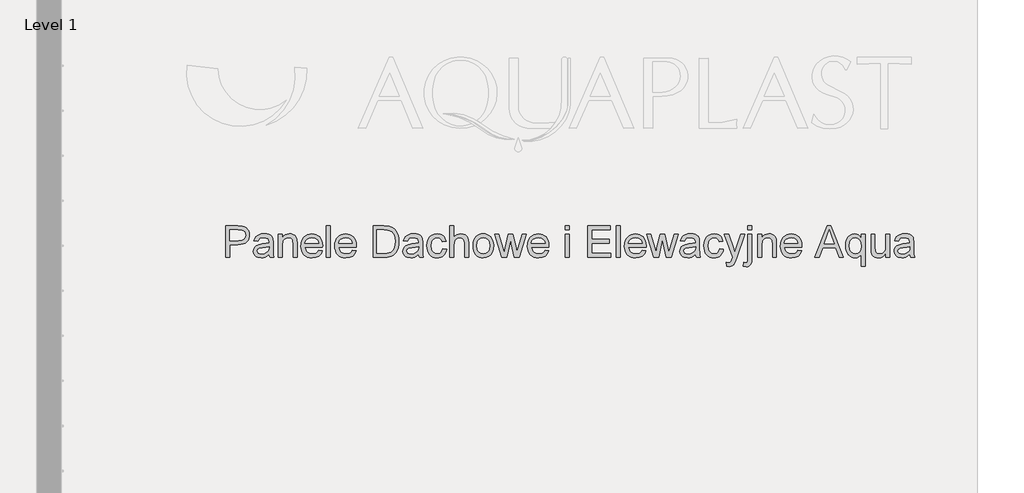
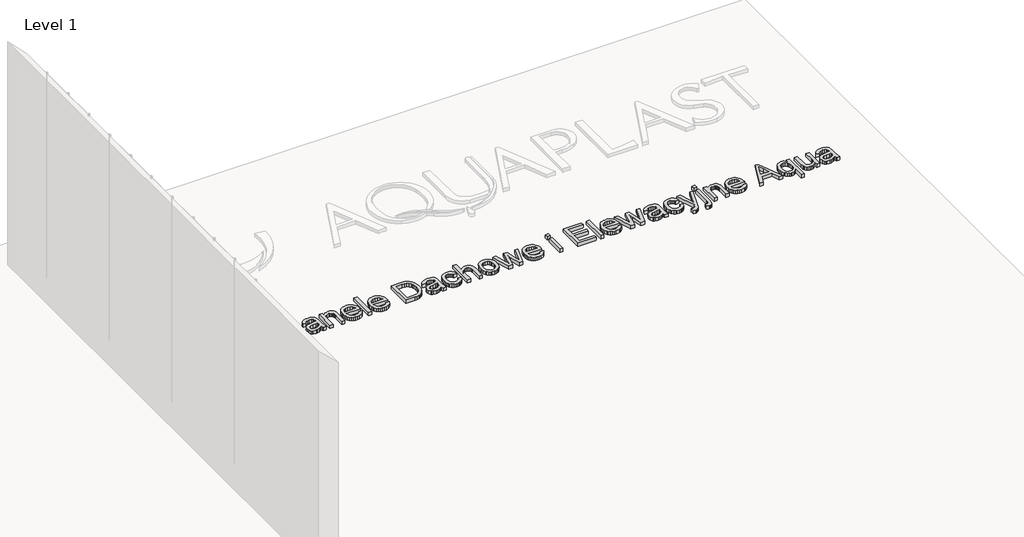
# One storey, part 22 of 22: 1 proxy.
"""IFC4 building model written with IfcOpenShell, lengths in millimetres."""

from ifc_helpers import new_model, si_unit, frame, origin, place, context, project, spatial, polyline, outline, extrude, element, save

model = new_model("IFC4")

# Units and contexts
model_context = context("Model", 3, world=origin())
ifc_project = project(units=[si_unit("LENGTHUNIT", "METRE", prefix="MILLI")], contexts=[model_context])

# Site, building, storey
site = spatial("IfcSite", under=ifc_project)
building = spatial("IfcBuilding", under=site)
storey = spatial("IfcBuildingStorey", under=building, Name="Level 1", Elevation=0.0)

# Proxy
placement = place(None, origin())
element("IfcBuildingElementProxy", 1, Name="400", ObjectType="400", at=placement, inside=storey, context=model_context, shape_type="SweptSolid", body=[
    extrude(outline(polyline([(-314.8019395, 13060.2215643), (-314.8019395, 13409.9541198), (-185.1891418, 13409.9541198), (-132.9341799, 13406.6241467), (-109.6350415, 13400.4017932), (-90.4556774, 13390.2731251), (-75.01186, 13375.7792039), (-62.9193617, 13356.461091), (-55.1067326, 13333.6742561), (-52.5025229, 13308.774169), (-54.2608981, 13287.3054485), (-59.5360237, 13267.5550794), (-68.3278997, 13249.5230618), (-80.6365261, 13233.2093957), (-97.5345384, 13219.6867166), (-120.0945723, 13210.0276601), (-148.3166276, 13204.2322262), (-182.2007045, 13202.3004149), (-271.0853701, 13202.3004149), (-271.0853701, 13060.2215643), (-314.8019395, 13060.2215643)]), holes=[polyline([(-271.0853701, 13246.0169844), (-179.6391867, 13246.0169844), (-140.8748849, 13250.0300288), (-126.4236557, 13255.0463344), (-115.2597075, 13262.0691622), (-100.9792461, 13281.3872752), (-96.2190923, 13307.2372584), (-99.0260888, 13326.8755611), (-107.4470784, 13343.4400424), (-120.436108, 13355.9060955), (-136.9472244, 13363.249113), (-180.6637938, 13366.2375503), (-271.0853701, 13366.2375503), (-271.0853701, 13246.0169844)])]), frame((0.0, 0.0, 600.0), z_axis=(0.0, 0.0, 1.0), x_axis=(1.0, 0.0, 0.0)), (0.0, 0.0, 1.0), 50.0),
    extrude(outline(polyline([(166.0803243, 13093.0089913), (145.1932818, 13075.0997131), (123.6872057, 13063.3807695), (101.0711387, 13056.9129372), (76.854123, 13054.7569931), (40.3204763, 13059.9440665), (25.6477824, 13066.4279083), (13.371175, 13075.5052868), (-3.2466713, 13099.1352879), (-8.7859534, 13128.528704), (-6.6940473, 13146.651442), (-0.4183288, 13163.1091935), (9.2620737, 13177.1975411), (21.5680318, 13188.2120674), (52.1781688, 13202.5565667), (90.0032474, 13209.1311289), (134.701732, 13216.0472268), (165.8241726, 13224.1586997), (166.0803243, 13233.8924671), (163.070541, 13253.4026939), (154.041191, 13266.1675906), (133.8478928, 13275.6452062), (105.7138896, 13278.8044115), (79.6717925, 13276.7018323), (61.4850166, 13270.3940949), (49.0830015, 13258.7285162), (40.3951872, 13240.5524132), (-3.3213822, 13246.0169844), (4.2671141, 13269.9244833), (15.5911571, 13288.7089467), (31.7073729, 13303.0747921), (53.6723875, 13313.7264367), (80.5363048, 13320.3223448), (111.3492286, 13322.5209809), (140.9027395, 13320.5784966), (164.3299539, 13314.7510438), (181.9937533, 13305.9885185), (194.2570195, 13295.240817), (202.3898383, 13281.9529437), (207.6622957, 13265.5699031), (209.7968938, 13227.3179049), (209.7968938, 13172.9283448), (212.0168758, 13096.9793438), (220.7260361, 13060.2215643), (177.0094667, 13060.2215643), (170.0079849, 13075.4199029), (166.0803243, 13093.0089913)]), holes=[polyline([(166.0803243, 13180.4421302), (136.7082542, 13173.1631506), (95.5532025, 13167.036854), (57.9415837, 13159.9499883), (40.9074907, 13148.4231585), (34.930616, 13131.6025253), (38.1858781, 13118.6028228), (47.9516645, 13107.9511782), (64.0145154, 13100.8429664), (86.1609708, 13098.4735625), (109.6415501, 13101.0884452), (130.3898438, 13108.9330933), (147.210477, 13120.4919421), (158.9080747, 13134.249427), (164.0951481, 13148.4231585), (165.8241726, 13168.0614611), (166.0803243, 13180.4421302)])]), frame((0.0, 0.0, 600.0), z_axis=(0.0, 0.0, 1.0), x_axis=(1.0, 0.0, 0.0)), (0.0, 0.0, 1.0), 50.0),
    extrude(outline(polyline([(269.9071768, 13060.2215643), (269.9071768, 13317.0564097), (313.6237462, 13317.0564097), (313.6237462, 13281.1951614), (328.8114118, 13299.2752074), (347.0515527, 13312.189526), (368.3441689, 13319.9381172), (392.6892605, 13322.5209809), (414.2380285, 13320.4397477), (433.972388, 13314.1960482), (450.4301395, 13304.5690107), (462.1490832, 13292.3377635), (470.1004612, 13277.5343256), (475.2555156, 13260.1907159), (477.5608816, 13217.9256732), (477.5608816, 13060.2215643), (433.8443122, 13060.2215643), (433.8443122, 13212.0341824), (432.5848993, 13234.6395764), (428.8066606, 13250.7131002), (421.8371977, 13262.2292571), (411.0041123, 13271.1625502), (397.1185516, 13276.8939461), (380.9916628, 13278.8044115), (355.3871584, 13274.5138692), (333.5608926, 13261.6422426), (324.8383911, 13251.1346834), (318.6080328, 13236.7741745), (313.6237462, 13196.4943081), (313.6237462, 13060.2215643), (269.9071768, 13060.2215643)])), frame((0.0, 0.0, 600.0), z_axis=(0.0, 0.0, 1.0), x_axis=(1.0, 0.0, 0.0)), (0.0, 0.0, 1.0), 50.0),
    extrude(outline(polyline([(717.48971, 13136.7255608), (760.3524402, 13131.2609896), (744.9086228, 13098.9645201), (720.2646875, 13074.8222154), (686.9756299, 13059.7732987), (645.5964454, 13054.7569931), (618.4710398, 13056.9209419), (594.3020526, 13063.4127884), (573.0894838, 13074.2325326), (554.8333334, 13089.3801745), (540.1526349, 13108.434131), (529.6664216, 13130.9728189), (523.3746937, 13156.9962381), (521.277451, 13186.5043889), (523.3960397, 13217.0131325), (529.7518056, 13243.9037322), (540.3447487, 13267.1761882), (555.1748691, 13286.8305004), (573.3829911, 13302.4450856), (594.1099388, 13313.5983608), (617.3557123, 13320.2903259), (643.1203116, 13322.5209809), (668.0550858, 13320.2956624), (690.6044467, 13313.6197068), (710.7683942, 13302.4931141), (728.5469282, 13286.9158843), (743.0595272, 13267.3042641), (753.4256693, 13244.0745001), (759.6453545, 13217.2265923), (761.718583, 13186.7605406), (761.4624312, 13174.977559), (564.9940205, 13174.977559), (572.5611708, 13142.2541699), (580.0989704, 13129.142401), (590.1395863, 13118.1972491), (615.5092849, 13103.4044842), (646.4502846, 13098.4735625), (669.7174041, 13100.7575825), (689.3130148, 13107.6096425), (705.2371168, 13119.456662), (717.48971, 13136.7255608)]), holes=[polyline([(564.9940205, 13218.6941285), (718.0020135, 13218.6941285), (712.0891767, 13241.7904801), (700.498309, 13258.3122695), (675.0112074, 13273.681376), (642.9495437, 13278.8044115), (613.4814167, 13274.7166561), (589.1149792, 13262.4533899), (572.1769431, 13243.3380637), (564.9940205, 13218.6941285)])]), frame((0.0, 0.0, 600.0), z_axis=(0.0, 0.0, 1.0), x_axis=(1.0, 0.0, 0.0)), (0.0, 0.0, 1.0), 50.0),
    extrude(outline(polyline([(805.4351524, 13060.2215643), (805.4351524, 13409.9541198), (849.1517218, 13409.9541198), (849.1517218, 13060.2215643), (805.4351524, 13060.2215643)])), frame((0.0, 0.0, 600.0), z_axis=(0.0, 0.0, 1.0), x_axis=(1.0, 0.0, 0.0)), (0.0, 0.0, 1.0), 50.0),
    extrude(outline(polyline([(1094.5451214, 13136.7255608), (1137.4078516, 13131.2609896), (1121.9640342, 13098.9645201), (1097.3200989, 13074.8222154), (1064.0310413, 13059.7732987), (1022.6518568, 13054.7569931), (995.5264512, 13056.9209419), (971.3574641, 13063.4127884), (950.1448953, 13074.2325326), (931.8887449, 13089.3801745), (917.2080463, 13108.434131), (906.7218331, 13130.9728189), (900.4301051, 13156.9962381), (898.3328625, 13186.5043889), (900.4514511, 13217.0131325), (906.807217, 13243.9037322), (917.4001601, 13267.1761882), (932.2302806, 13286.8305004), (950.4384025, 13302.4450856), (971.1653502, 13313.5983608), (994.4111237, 13320.2903259), (1020.175723, 13322.5209809), (1045.1104973, 13320.2956624), (1067.6598581, 13313.6197068), (1087.8238056, 13302.4931141), (1105.6023396, 13286.9158843), (1120.1149386, 13267.3042641), (1130.4810807, 13244.0745001), (1136.700766, 13217.2265923), (1138.7739944, 13186.7605406), (1138.5178426, 13174.977559), (942.0494319, 13174.977559), (949.6165822, 13142.2541699), (957.1543818, 13129.142401), (967.1949977, 13118.1972491), (992.5646963, 13103.4044842), (1023.5056961, 13098.4735625), (1046.7728155, 13100.7575825), (1066.3684263, 13107.6096425), (1082.2925282, 13119.456662), (1094.5451214, 13136.7255608)]), holes=[polyline([(942.0494319, 13218.6941285), (1095.0574249, 13218.6941285), (1089.1445882, 13241.7904801), (1077.5537204, 13258.3122695), (1052.0666189, 13273.681376), (1020.0049551, 13278.8044115), (990.5368281, 13274.7166561), (966.1703906, 13262.4533899), (949.2323546, 13243.3380637), (942.0494319, 13218.6941285)])]), frame((0.0, 0.0, 600.0), z_axis=(0.0, 0.0, 1.0), x_axis=(1.0, 0.0, 0.0)), (0.0, 0.0, 1.0), 50.0),
    extrude(outline(polyline([(1324.5694145, 13060.2215643), (1324.5694145, 13409.9541198), (1445.2169001, 13409.9541198), (1481.2702623, 13408.6947069), (1507.632549, 13404.9164682), (1535.5104005, 13395.2040468), (1559.0336717, 13379.8989783), (1583.2186684, 13353.2591938), (1600.4448752, 13320.130231), (1610.7549841, 13281.1524694), (1614.1916871, 13236.9662884), (1611.8649751, 13199.4293805), (1604.8848393, 13166.3964746), (1594.2545406, 13138.2731444), (1580.9773403, 13115.4649635), (1565.6936178, 13097.4596284), (1549.0437525, 13083.7448355), (1529.9284264, 13073.5734755), (1507.2483214, 13066.198439), (1480.9607456, 13061.7157829), (1451.023007, 13060.2215643), (1324.5694145, 13060.2215643)]), holes=[polyline([(1368.2859839, 13103.9381337), (1445.6438197, 13103.9381337), (1477.6414455, 13105.5177363), (1501.9118261, 13110.2565441), (1520.2266779, 13117.8770594), (1534.3577175, 13128.1017844), (1549.5453831, 13147.0249967), (1560.95481, 13171.5195101), (1568.0950407, 13201.6920545), (1570.4751176, 13237.6493598), (1565.8110207, 13285.2935897), (1559.9808996, 13304.4409348), (1551.8187301, 13320.4717667), (1531.1451473, 13344.6354174), (1506.4371741, 13359.2360685), (1481.2916083, 13364.4871799), (1444.4484448, 13366.2375503), (1368.2859839, 13366.2375503), (1368.2859839, 13103.9381337)])]), frame((0.0, 0.0, 600.0), z_axis=(0.0, 0.0, 1.0), x_axis=(1.0, 0.0, 0.0)), (0.0, 0.0, 1.0), 50.0),
    extrude(outline(polyline([(1832.7745343, 13093.0089913), (1811.8874917, 13075.0997131), (1790.3814156, 13063.3807695), (1767.7653486, 13056.9129372), (1743.548333, 13054.7569931), (1707.0146862, 13059.9440665), (1692.3419924, 13066.4279083), (1680.0653849, 13075.5052868), (1663.4475386, 13099.1352879), (1657.9082565, 13128.528704), (1660.0001626, 13146.651442), (1666.2758811, 13163.1091935), (1675.9562836, 13177.1975411), (1688.2622417, 13188.2120674), (1718.8723787, 13202.5565667), (1756.6974574, 13209.1311289), (1801.3959419, 13216.0472268), (1832.5183825, 13224.1586997), (1832.7745343, 13233.8924671), (1829.7647509, 13253.4026939), (1820.7354009, 13266.1675906), (1800.5421027, 13275.6452062), (1772.4080995, 13278.8044115), (1746.3660025, 13276.7018323), (1728.1792265, 13270.3940949), (1715.7772115, 13258.7285162), (1707.0893971, 13240.5524132), (1663.3728277, 13246.0169844), (1670.961324, 13269.9244833), (1682.285367, 13288.7089467), (1698.4015828, 13303.0747921), (1720.3665974, 13313.7264367), (1747.2305147, 13320.3223448), (1778.0434385, 13322.5209809), (1807.5969495, 13320.5784966), (1831.0241638, 13314.7510438), (1848.6879632, 13305.9885185), (1860.9512294, 13295.240817), (1869.0840482, 13281.9529437), (1874.3565056, 13265.5699031), (1876.4911037, 13227.3179049), (1876.4911037, 13172.9283448), (1878.7110857, 13096.9793438), (1887.4202461, 13060.2215643), (1843.7036766, 13060.2215643), (1836.7021948, 13075.4199029), (1832.7745343, 13093.0089913)]), holes=[polyline([(1832.7745343, 13180.4421302), (1803.4024642, 13173.1631506), (1762.2474125, 13167.036854), (1724.6357936, 13159.9499883), (1707.6017007, 13148.4231585), (1701.6248259, 13131.6025253), (1704.8800881, 13118.6028228), (1714.6458744, 13107.9511782), (1730.7087253, 13100.8429664), (1752.8551807, 13098.4735625), (1776.33576, 13101.0884452), (1797.0840537, 13108.9330933), (1813.9046869, 13120.4919421), (1825.6022846, 13134.249427), (1830.789358, 13148.4231585), (1832.5183825, 13168.0614611), (1832.7745343, 13180.4421302)])]), frame((0.0, 0.0, 600.0), z_axis=(0.0, 0.0, 1.0), x_axis=(1.0, 0.0, 0.0)), (0.0, 0.0, 1.0), 50.0),
    extrude(outline(polyline([(2100.5385221, 13153.1192743), (2144.2550915, 13147.6547031), (2139.5002742, 13127.0264806), (2132.0665363, 13108.7729984), (2121.9538777, 13092.8942567), (2109.1622985, 13079.3902553), (2094.2307846, 13068.6132031), (2077.6983222, 13060.9153086), (2059.5649112, 13056.296572), (2039.8305516, 13054.7569931), (2015.312024, 13056.9049324), (1993.3283316, 13063.3487505), (1973.8794745, 13074.0884473), (1956.9654527, 13089.1240228), (1943.274674, 13108.1726427), (1933.4955464, 13130.9514729), (1927.6280698, 13157.4605132), (1925.6722443, 13187.6997638), (1929.0128904, 13226.6028145), (1939.0348285, 13260.3187918), (1955.8981537, 13287.5455907), (1979.7629606, 13306.9811066), (2008.3132104, 13318.6360123), (2039.2328642, 13322.5209809), (2076.1720846, 13317.1844856), (2091.864049, 13310.5138665), (2105.7042495, 13301.1749997), (2117.4578804, 13289.3813451), (2126.8901358, 13275.3463625), (2138.7905203, 13240.5524132), (2095.0739509, 13235.087842), (2087.1439189, 13254.1604762), (2074.7952688, 13267.8325771), (2058.711072, 13276.0614529), (2039.5743999, 13278.8044115), (2011.3229938, 13273.4038782), (1988.8990405, 13257.2022785), (1980.3633163, 13244.8322824), (1974.2663705, 13229.3244271), (1969.3888138, 13188.8951388), (1974.1596405, 13147.9215279), (1980.123174, 13132.3096109), (1988.4721209, 13119.9476196), (2010.4905005, 13103.8420768), (2038.3790249, 13098.4735625), (2061.0164379, 13101.8248816), (2079.5767686, 13111.8788387), (2093.0781017, 13128.8915857), (2100.5385221, 13153.1192743)])), frame((0.0, 0.0, 600.0), z_axis=(0.0, 0.0, 1.0), x_axis=(1.0, 0.0, 0.0)), (0.0, 0.0, 1.0), 50.0),
    extrude(outline(polyline([(2182.5070898, 13060.2215643), (2182.5070898, 13409.9541198), (2226.2236592, 13409.9541198), (2226.2236592, 13281.3659292), (2242.2811736, 13299.3712643), (2260.3131912, 13312.232218), (2280.319712, 13319.9487902), (2302.3007361, 13322.5209809), (2328.7057148, 13319.7139844), (2351.3964928, 13311.2929948), (2369.2630791, 13297.9197376), (2381.1954825, 13280.2559382), (2387.9194666, 13255.9855576), (2390.1607946, 13222.7925569), (2390.1607946, 13060.2215643), (2346.4442252, 13060.2215643), (2346.4442252, 13218.2672089), (2342.9648303, 13245.6327567), (2332.5266455, 13264.3745282), (2315.7060123, 13275.1969406), (2293.0792723, 13278.8044115), (2274.6043255, 13276.3709696), (2257.2607158, 13269.070644), (2242.8948705, 13257.6078522), (2233.3532169, 13242.6870113), (2228.0060486, 13222.8565948), (2226.2236592, 13196.6650759), (2226.2236592, 13060.2215643), (2182.5070898, 13060.2215643)])), frame((0.0, 0.0, 600.0), z_axis=(0.0, 0.0, 1.0), x_axis=(1.0, 0.0, 0.0)), (0.0, 0.0, 1.0), 50.0),
    extrude(outline(polyline([(2439.3419352, 13188.638987), (2441.7060027, 13221.9013622), (2448.7982049, 13250.5636784), (2460.618542, 13274.6259356), (2477.1670139, 13294.088134), (2493.8275522, 13306.5275045), (2512.217115, 13315.4127692), (2532.3357022, 13320.743928), (2554.1833139, 13322.5209809), (2578.3016044, 13320.3570321), (2600.1091924, 13313.8651855), (2619.606078, 13303.0454413), (2636.7922611, 13287.8977994), (2650.819239, 13268.9345634), (2660.8385089, 13246.6680368), (2666.8500708, 13221.0982196), (2668.8539248, 13192.2251118), (2665.3104919, 13148.0602768), (2654.6801933, 13114.4403564), (2637.2725457, 13089.2627716), (2613.3970657, 13070.4249433), (2585.0389297, 13058.6739806), (2554.1833139, 13054.7569931), (2529.7128148, 13056.9129372), (2507.7024399, 13063.3807695), (2488.1521894, 13074.16049), (2471.0620633, 13089.2520987), (2457.1845073, 13108.3994438), (2447.2719672, 13131.3463735), (2441.3244432, 13158.0928879), (2439.3419352, 13188.638987)]), holes=[polyline([(2483.0585047, 13188.7243709), (2488.1175022, 13149.1595948), (2494.4412491, 13133.6437347), (2503.2944948, 13120.9722267), (2526.1346947, 13104.0982286), (2554.1833139, 13098.4735625), (2582.1038573, 13104.1302475), (2604.9013652, 13121.1003026), (2613.7546109, 13133.8972183), (2620.0783578, 13149.6612254), (2625.1373554, 13190.0905137), (2620.0463389, 13228.5026068), (2613.6825682, 13243.7302961), (2604.7732893, 13256.3057473), (2581.9437625, 13273.1797454), (2554.1833139, 13278.8044115), (2526.1346947, 13273.2010914), (2503.2944948, 13256.3911312), (2494.4412491, 13243.7569786), (2488.1175022, 13228.267801), (2483.0585047, 13188.7243709)])]), frame((0.0, 0.0, 600.0), z_axis=(0.0, 0.0, 1.0), x_axis=(1.0, 0.0, 0.0)), (0.0, 0.0, 1.0), 50.0),
    extrude(outline(polyline([(2760.9831795, 13060.2215643), (2682.5153528, 13317.0564097), (2727.8542168, 13317.0564097), (2772.2538576, 13167.2076219), (2785.4883659, 13113.6719011), (2796.3321244, 13165.2437916), (2831.5956853, 13317.0564097), (2883.5091115, 13317.0564097), (2918.7726724, 13165.6707112), (2928.4210559, 13118.9657044), (2942.2532517, 13168.232229), (2986.6528925, 13317.0564097), (3032.2479083, 13317.0564097), (2953.5239297, 13060.2215643), (2900.7566643, 13060.2215643), (2867.1153979, 13210.8388074), (2857.3816305, 13257.799966), (2814.0919807, 13060.2215643), (2760.9831795, 13060.2215643)])), frame((0.0, 0.0, 600.0), z_axis=(0.0, 0.0, 1.0), x_axis=(1.0, 0.0, 0.0)), (0.0, 0.0, 1.0), 50.0),
    extrude(outline(polyline([(3242.1215952, 13136.7255608), (3284.9843254, 13131.2609896), (3269.540508, 13098.9645201), (3244.8965727, 13074.8222154), (3211.6075151, 13059.7732987), (3170.2283306, 13054.7569931), (3143.102925, 13056.9209419), (3118.9339378, 13063.4127884), (3097.721369, 13074.2325326), (3079.4652186, 13089.3801745), (3064.7845201, 13108.434131), (3054.2983068, 13130.9728189), (3048.0065789, 13156.9962381), (3045.9093362, 13186.5043889), (3048.0279249, 13217.0131325), (3054.3836908, 13243.9037322), (3064.9766339, 13267.1761882), (3079.8067543, 13286.8305004), (3098.0148763, 13302.4450856), (3118.741824, 13313.5983608), (3141.9875975, 13320.2903259), (3167.7521968, 13322.5209809), (3192.686971, 13320.2956624), (3215.2363319, 13313.6197068), (3235.4002793, 13302.4931141), (3253.1788134, 13286.9158843), (3267.6914124, 13267.3042641), (3278.0575545, 13244.0745001), (3284.2772397, 13217.2265923), (3286.3504682, 13186.7605406), (3286.0943164, 13174.977559), (3089.6259057, 13174.977559), (3097.193056, 13142.2541699), (3104.7308556, 13129.142401), (3114.7714715, 13118.1972491), (3140.1411701, 13103.4044842), (3171.0821698, 13098.4735625), (3194.3492893, 13100.7575825), (3213.9449, 13107.6096425), (3229.869002, 13119.456662), (3242.1215952, 13136.7255608)]), holes=[polyline([(3089.6259057, 13218.6941285), (3242.6338987, 13218.6941285), (3236.7210619, 13241.7904801), (3225.1301942, 13258.3122695), (3199.6430926, 13273.681376), (3167.5814289, 13278.8044115), (3138.1133019, 13274.7166561), (3113.7468644, 13262.4533899), (3096.8088283, 13243.3380637), (3089.6259057, 13218.6941285)])]), frame((0.0, 0.0, 600.0), z_axis=(0.0, 0.0, 1.0), x_axis=(1.0, 0.0, 0.0)), (0.0, 0.0, 1.0), 50.0),
    extrude(outline(polyline([(3466.6813171, 13366.2375503), (3466.6813171, 13409.9541198), (3510.3978865, 13409.9541198), (3510.3978865, 13366.2375503), (3466.6813171, 13366.2375503)])), frame((0.0, 0.0, 600.0), z_axis=(0.0, 0.0, 1.0), x_axis=(1.0, 0.0, 0.0)), (0.0, 0.0, 1.0), 50.0),
    extrude(outline(polyline([(3466.6813171, 13060.2215643), (3466.6813171, 13317.0564097), (3510.3978865, 13317.0564097), (3510.3978865, 13060.2215643), (3466.6813171, 13060.2215643)])), frame((0.0, 0.0, 600.0), z_axis=(0.0, 0.0, 1.0), x_axis=(1.0, 0.0, 0.0)), (0.0, 0.0, 1.0), 50.0),
    extrude(outline(polyline([(3718.0515914, 13060.2215643), (3718.0515914, 13409.9541198), (3969.4218657, 13409.9541198), (3969.4218657, 13366.2375503), (3761.7681608, 13366.2375503), (3761.7681608, 13262.4106979), (3958.4927233, 13262.4106979), (3958.4927233, 13218.6941285), (3761.7681608, 13218.6941285), (3761.7681608, 13103.9381337), (3974.8864368, 13103.9381337), (3974.8864368, 13060.2215643), (3718.0515914, 13060.2215643)])), frame((0.0, 0.0, 600.0), z_axis=(0.0, 0.0, 1.0), x_axis=(1.0, 0.0, 0.0)), (0.0, 0.0, 1.0), 50.0),
    extrude(outline(polyline([(4034.9967198, 13060.2215643), (4034.9967198, 13409.9541198), (4078.7132893, 13409.9541198), (4078.7132893, 13060.2215643), (4034.9967198, 13060.2215643)])), frame((0.0, 0.0, 600.0), z_axis=(0.0, 0.0, 1.0), x_axis=(1.0, 0.0, 0.0)), (0.0, 0.0, 1.0), 50.0),
    extrude(outline(polyline([(4324.1066888, 13136.7255608), (4366.969419, 13131.2609896), (4351.5256016, 13098.9645201), (4326.8816664, 13074.8222154), (4293.5926087, 13059.7732987), (4252.2134242, 13054.7569931), (4225.0880187, 13056.9209419), (4200.9190315, 13063.4127884), (4179.7064627, 13074.2325326), (4161.4503123, 13089.3801745), (4146.7696137, 13108.434131), (4136.2834005, 13130.9728189), (4129.9916725, 13156.9962381), (4127.8944299, 13186.5043889), (4130.0130185, 13217.0131325), (4136.3687844, 13243.9037322), (4146.9617276, 13267.1761882), (4161.791848, 13286.8305004), (4179.9999699, 13302.4450856), (4200.7269176, 13313.5983608), (4223.9726911, 13320.2903259), (4249.7372904, 13322.5209809), (4274.6720647, 13320.2956624), (4297.2214255, 13313.6197068), (4317.385373, 13302.4931141), (4335.1639071, 13286.9158843), (4349.676506, 13267.3042641), (4360.0426481, 13244.0745001), (4366.2623334, 13217.2265923), (4368.3355618, 13186.7605406), (4368.07941, 13174.977559), (4171.6109993, 13174.977559), (4179.1781497, 13142.2541699), (4186.7159493, 13129.142401), (4196.7565651, 13118.1972491), (4222.1262638, 13103.4044842), (4253.0672635, 13098.4735625), (4276.334383, 13100.7575825), (4295.9299937, 13107.6096425), (4311.8540956, 13119.456662), (4324.1066888, 13136.7255608)]), holes=[polyline([(4171.6109993, 13218.6941285), (4324.6189924, 13218.6941285), (4318.7061556, 13241.7904801), (4307.1152878, 13258.3122695), (4281.6281863, 13273.681376), (4249.5665226, 13278.8044115), (4220.0983956, 13274.7166561), (4195.7319581, 13262.4533899), (4178.793922, 13243.3380637), (4171.6109993, 13218.6941285)])]), frame((0.0, 0.0, 600.0), z_axis=(0.0, 0.0, 1.0), x_axis=(1.0, 0.0, 0.0)), (0.0, 0.0, 1.0), 50.0),
    extrude(outline(polyline([(4455.0002454, 13060.2215643), (4376.5324186, 13317.0564097), (4421.8712826, 13317.0564097), (4466.2709234, 13167.2076219), (4479.5054318, 13113.6719011), (4490.3491902, 13165.2437916), (4525.6127511, 13317.0564097), (4577.5261773, 13317.0564097), (4612.7897382, 13165.6707112), (4622.4381217, 13118.9657044), (4636.2703175, 13168.232229), (4680.6699583, 13317.0564097), (4726.2649741, 13317.0564097), (4647.5409955, 13060.2215643), (4594.7737301, 13060.2215643), (4561.1324638, 13210.8388074), (4551.3986963, 13257.799966), (4508.1090465, 13060.2215643), (4455.0002454, 13060.2215643)])), frame((0.0, 0.0, 600.0), z_axis=(0.0, 0.0, 1.0), x_axis=(1.0, 0.0, 0.0)), (0.0, 0.0, 1.0), 50.0),
    extrude(outline(polyline([(4920.257251, 13093.0089913), (4899.3702084, 13075.0997131), (4877.8641324, 13063.3807695), (4855.2480653, 13056.9129372), (4831.0310497, 13054.7569931), (4794.4974029, 13059.9440665), (4779.8247091, 13066.4279083), (4767.5481017, 13075.5052868), (4750.9302553, 13099.1352879), (4745.3909732, 13128.528704), (4747.4828794, 13146.651442), (4753.7585979, 13163.1091935), (4763.4390003, 13177.1975411), (4775.7449585, 13188.2120674), (4806.3550955, 13202.5565667), (4844.1801741, 13209.1311289), (4888.8786587, 13216.0472268), (4920.0010992, 13224.1586997), (4920.257251, 13233.8924671), (4917.2474677, 13253.4026939), (4908.2181176, 13266.1675906), (4888.0248194, 13275.6452062), (4859.8908162, 13278.8044115), (4833.8487192, 13276.7018323), (4815.6619433, 13270.3940949), (4803.2599282, 13258.7285162), (4794.5721139, 13240.5524132), (4750.8555444, 13246.0169844), (4758.4440407, 13269.9244833), (4769.7680837, 13288.7089467), (4785.8842995, 13303.0747921), (4807.8493141, 13313.7264367), (4834.7132314, 13320.3223448), (4865.5261553, 13322.5209809), (4895.0796662, 13320.5784966), (4918.5068805, 13314.7510438), (4936.17068, 13305.9885185), (4948.4339461, 13295.240817), (4956.566765, 13281.9529437), (4961.8392223, 13265.5699031), (4963.9738204, 13227.3179049), (4963.9738204, 13172.9283448), (4966.1938025, 13096.9793438), (4974.9029628, 13060.2215643), (4931.1863934, 13060.2215643), (4924.1849115, 13075.4199029), (4920.257251, 13093.0089913)]), holes=[polyline([(4920.257251, 13180.4421302), (4890.8851809, 13173.1631506), (4849.7301292, 13167.036854), (4812.1185104, 13159.9499883), (4795.0844174, 13148.4231585), (4789.1075427, 13131.6025253), (4792.3628048, 13118.6028228), (4802.1285912, 13107.9511782), (4818.191442, 13100.8429664), (4840.3378975, 13098.4735625), (4863.8184768, 13101.0884452), (4884.5667705, 13108.9330933), (4901.3874036, 13120.4919421), (4913.0850013, 13134.249427), (4918.2720747, 13148.4231585), (4920.0010992, 13168.0614611), (4920.257251, 13180.4421302)])]), frame((0.0, 0.0, 600.0), z_axis=(0.0, 0.0, 1.0), x_axis=(1.0, 0.0, 0.0)), (0.0, 0.0, 1.0), 50.0),
    extrude(outline(polyline([(5188.0212388, 13153.1192743), (5231.7378083, 13147.6547031), (5226.982991, 13127.0264806), (5219.549253, 13108.7729984), (5209.4365944, 13092.8942567), (5196.6450152, 13079.3902553), (5181.7135014, 13068.6132031), (5165.181039, 13060.9153086), (5147.047628, 13056.296572), (5127.3132684, 13054.7569931), (5102.7947407, 13056.9049324), (5080.8110484, 13063.3487505), (5061.3621913, 13074.0884473), (5044.4481695, 13089.1240228), (5030.7573908, 13108.1726427), (5020.9782632, 13130.9514729), (5015.1107866, 13157.4605132), (5013.1549611, 13187.6997638), (5016.4956071, 13226.6028145), (5026.5175453, 13260.3187918), (5043.3808704, 13287.5455907), (5067.2456773, 13306.9811066), (5095.7959272, 13318.6360123), (5126.7155809, 13322.5209809), (5163.6548013, 13317.1844856), (5179.3467657, 13310.5138665), (5193.1869663, 13301.1749997), (5204.9405971, 13289.3813451), (5214.3728526, 13275.3463625), (5226.2732371, 13240.5524132), (5182.5566676, 13235.087842), (5174.6266356, 13254.1604762), (5162.2779855, 13267.8325771), (5146.1937887, 13276.0614529), (5127.0571166, 13278.8044115), (5098.8057105, 13273.4038782), (5076.3817573, 13257.2022785), (5067.8460331, 13244.8322824), (5061.7490872, 13229.3244271), (5056.8715305, 13188.8951388), (5061.6423573, 13147.9215279), (5067.6058908, 13132.3096109), (5075.9548377, 13119.9476196), (5097.9732172, 13103.8420768), (5125.8617416, 13098.4735625), (5148.4991547, 13101.8248816), (5167.0594853, 13111.8788387), (5180.5608184, 13128.8915857), (5188.0212388, 13153.1192743)])), frame((0.0, 0.0, 600.0), z_axis=(0.0, 0.0, 1.0), x_axis=(1.0, 0.0, 0.0)), (0.0, 0.0, 1.0), 50.0),
    extrude(outline(polyline([(5504.9663673, 13366.2375503), (5504.9663673, 13409.9541198), (5548.6829367, 13409.9541198), (5548.6829367, 13366.2375503), (5504.9663673, 13366.2375503)])), frame((0.0, 0.0, 600.0), z_axis=(0.0, 0.0, 1.0), x_axis=(1.0, 0.0, 0.0)), (0.0, 0.0, 1.0), 50.0),
    extrude(outline(polyline([(5449.8937358, 12961.6885152), (5459.0298158, 13003.2704865), (5479.180422, 13000.1112813), (5490.515138, 13002.2778984), (5498.5625729, 13008.7777496), (5503.3654187, 13023.9440693), (5504.9663673, 13052.1100914), (5504.9663673, 13317.0564097), (5548.6829367, 13317.0564097), (5548.6829367, 13046.4747524), (5545.5877694, 13006.3443078), (5536.3022676, 12980.5583625), (5527.1448417, 12969.9867653), (5515.3832061, 12962.4356245), (5501.0173607, 12957.90494), (5484.0473057, 12956.3947118), (5449.8937358, 12961.6885152)])), frame((0.0, 0.0, 600.0), z_axis=(0.0, 0.0, 1.0), x_axis=(1.0, 0.0, 0.0)), (0.0, 0.0, 1.0), 50.0),
    extrude(outline(polyline([(5269.9898065, 12961.859283), (5264.5252353, 13003.9535579), (5286.7250558, 13000.1112813), (5307.4733495, 13004.935473), (5320.1955542, 13018.3834412), (5332.1493037, 13050.5731808), (5335.5646607, 13061.1607874), (5242.6669506, 13317.0564097), (5288.688886, 13317.0564097), (5338.0407945, 13174.3798716), (5355.2029634, 13117.3434099), (5372.3651322, 13167.8053094), (5422.9977996, 13317.0564097), (5468.6781993, 13317.0564097), (5379.2812301, 13054.0739217), (5356.0568026, 12997.03746), (5344.1670911, 12978.829338), (5330.697777, 12966.2138632), (5315.0725188, 12958.8494997), (5296.7149749, 12956.3947118), (5269.9898065, 12961.859283)])), frame((0.0, 0.0, 600.0), z_axis=(0.0, 0.0, 1.0), x_axis=(1.0, 0.0, 0.0)), (0.0, 0.0, 1.0), 50.0),
    extrude(outline(polyline([(5614.2577909, 13060.2215643), (5614.2577909, 13317.0564097), (5657.9743603, 13317.0564097), (5657.9743603, 13281.1951614), (5673.1620259, 13299.2752074), (5691.4021668, 13312.189526), (5712.694783, 13319.9381172), (5737.0398746, 13322.5209809), (5758.5886426, 13320.4397477), (5778.3230022, 13314.1960482), (5794.7807536, 13304.5690107), (5806.4996973, 13292.3377635), (5814.4510753, 13277.5343256), (5819.6061297, 13260.1907159), (5821.9114957, 13217.9256732), (5821.9114957, 13060.2215643), (5778.1949263, 13060.2215643), (5778.1949263, 13212.0341824), (5776.9355134, 13234.6395764), (5773.1572747, 13250.7131002), (5766.1878119, 13262.2292571), (5755.3547264, 13271.1625502), (5741.4691657, 13276.8939461), (5725.3422769, 13278.8044115), (5699.7377725, 13274.5138692), (5677.9115067, 13261.6422426), (5669.1890052, 13251.1346834), (5662.9586469, 13236.7741745), (5657.9743603, 13196.4943081), (5657.9743603, 13060.2215643), (5614.2577909, 13060.2215643)])), frame((0.0, 0.0, 600.0), z_axis=(0.0, 0.0, 1.0), x_axis=(1.0, 0.0, 0.0)), (0.0, 0.0, 1.0), 50.0),
    extrude(outline(polyline([(6061.8403241, 13136.7255608), (6104.7030543, 13131.2609896), (6089.2592369, 13098.9645201), (6064.6153016, 13074.8222154), (6031.326244, 13059.7732987), (5989.9470595, 13054.7569931), (5962.8216539, 13056.9209419), (5938.6526667, 13063.4127884), (5917.4400979, 13074.2325326), (5899.1839476, 13089.3801745), (5884.503249, 13108.434131), (5874.0170357, 13130.9728189), (5867.7253078, 13156.9962381), (5865.6280651, 13186.5043889), (5867.7466538, 13217.0131325), (5874.1024197, 13243.9037322), (5884.6953628, 13267.1761882), (5899.5254833, 13286.8305004), (5917.7336052, 13302.4450856), (5938.4605529, 13313.5983608), (5961.7063264, 13320.2903259), (5987.4709257, 13322.5209809), (6012.4056999, 13320.2956624), (6034.9550608, 13313.6197068), (6055.1190083, 13302.4931141), (6072.8975423, 13286.9158843), (6087.4101413, 13267.3042641), (6097.7762834, 13244.0745001), (6103.9959687, 13217.2265923), (6106.0691971, 13186.7605406), (6105.8130453, 13174.977559), (5909.3446346, 13174.977559), (5916.9117849, 13142.2541699), (5924.4495845, 13129.142401), (5934.4902004, 13118.1972491), (5959.859899, 13103.4044842), (5990.8008987, 13098.4735625), (6014.0680182, 13100.7575825), (6033.6636289, 13107.6096425), (6049.5877309, 13119.456662), (6061.8403241, 13136.7255608)]), holes=[polyline([(5909.3446346, 13218.6941285), (6062.3526276, 13218.6941285), (6056.4397908, 13241.7904801), (6044.8489231, 13258.3122695), (6019.3618216, 13273.681376), (5987.3001578, 13278.8044115), (5957.8320308, 13274.7166561), (5933.4655933, 13262.4533899), (5916.5275573, 13243.3380637), (5909.3446346, 13218.6941285)])]), frame((0.0, 0.0, 600.0), z_axis=(0.0, 0.0, 1.0), x_axis=(1.0, 0.0, 0.0)), (0.0, 0.0, 1.0), 50.0),
    extrude(outline(polyline([(6251.221869, 13060.2215643), (6390.8245859, 13409.9541198), (6428.0519771, 13409.9541198), (6567.56931, 13060.2215643), (6521.3766068, 13060.2215643), (6481.41693, 13169.5129879), (6337.2888651, 13169.5129879), (6297.3291884, 13060.2215643), (6251.221869, 13060.2215643)]), holes=[polyline([(6353.341043, 13213.2295573), (6465.4501361, 13213.2295573), (6433.858084, 13299.2111695), (6409.3528976, 13366.2375503), (6387.5799968, 13306.7249548), (6353.341043, 13213.2295573)])]), frame((0.0, 0.0, 600.0), z_axis=(0.0, 0.0, 1.0), x_axis=(1.0, 0.0, 0.0)), (0.0, 0.0, 1.0), 50.0),
    extrude(outline(polyline([(6767.2823099, 12961.859283), (6767.2823099, 13095.2289734), (6755.3925983, 13079.2835254), (6739.5325343, 13066.2838229), (6721.1322986, 13057.6387005), (6701.6220718, 13054.7569931), (6680.0679673, 13057.0330083), (6660.0614464, 13063.861054), (6641.6025092, 13075.2411303), (6624.6911556, 13091.173237), (6610.5707891, 13111.0703597), (6600.484813, 13134.3454839), (6594.4332273, 13160.9986096), (6592.4160321, 13191.0297369), (6595.6179293, 13227.6380946), (6605.2236208, 13260.2760998), (6620.912917, 13287.214728), (6642.365628, 13306.7249548), (6667.8740755, 13318.5719744), (6695.730581, 13322.5209809), (6717.268676, 13319.4578326), (6736.3733291, 13310.2683877), (6753.0445404, 13294.9526462), (6767.2823099, 13273.5106081), (6767.2823099, 13317.0564097), (6810.9988793, 13317.0564097), (6810.9988793, 12961.859283), (6767.2823099, 12961.859283)]), holes=[polyline([(6636.1326015, 13188.638987), (6641.0528502, 13149.1916138), (6647.203161, 13133.6944315), (6655.8135962, 13121.0149186), (6677.4477481, 13104.1089015), (6702.9882146, 13098.4735625), (6727.461382, 13103.8314038), (6748.2843866, 13119.9049276), (6756.595978, 13132.0187719), (6762.5328291, 13146.9289398), (6767.2823099, 13185.1382461), (6762.2766773, 13225.983781), (6756.0196365, 13242.0759826), (6747.2597795, 13255.2811402), (6725.4975517, 13272.9235936), (6700.255929, 13278.8044115), (6675.4839178, 13273.3291673), (6654.7889891, 13256.9034348), (6646.6268195, 13244.4240405), (6640.7966984, 13228.8868345), (6636.1326015, 13188.638987)])]), frame((0.0, 0.0, 600.0), z_axis=(0.0, 0.0, 1.0), x_axis=(1.0, 0.0, 0.0)), (0.0, 0.0, 1.0), 50.0),
    extrude(outline(polyline([(7040.5108689, 13060.2215643), (7040.5108689, 13104.3650533), (7024.6934968, 13082.661527), (7006.2719151, 13067.1590081), (6985.2461236, 13057.8574968), (6961.6161225, 13054.7569931), (6940.3235062, 13056.9342832), (6920.5037627, 13063.4661534), (6903.8752434, 13073.2853047), (6892.1562997, 13085.3244381), (6884.2689597, 13099.9464352), (6879.1352512, 13117.5141777), (6876.5737335, 13158.1569259), (6876.5737335, 13317.0564097), (6920.2903029, 13317.0564097), (6920.2903029, 13178.7344517), (6922.9372046, 13134.164043), (6929.3089799, 13119.2965672), (6940.2274493, 13107.9938701), (6954.9668493, 13100.8536394), (6972.8014166, 13098.4735625), (6991.660591, 13100.9070044), (7009.3030444, 13108.2073299), (7023.8503306, 13119.7021408), (7033.4240031, 13134.7190385), (7038.7391524, 13155.2858914), (7040.5108689, 13183.4305676), (7040.5108689, 13317.0564097), (7084.2274383, 13317.0564097), (7084.2274383, 13060.2215643), (7040.5108689, 13060.2215643)])), frame((0.0, 0.0, 600.0), z_axis=(0.0, 0.0, 1.0), x_axis=(1.0, 0.0, 0.0)), (0.0, 0.0, 1.0), 50.0),
    extrude(outline(polyline([(7308.2748567, 13093.0089913), (7287.3878141, 13075.0997131), (7265.8817381, 13063.3807695), (7243.265671, 13056.9129372), (7219.0486554, 13054.7569931), (7182.5150086, 13059.9440665), (7167.8423148, 13066.4279083), (7155.5657074, 13075.5052868), (7138.947861, 13099.1352879), (7133.4085789, 13128.528704), (7135.5004851, 13146.651442), (7141.7762035, 13163.1091935), (7151.456606, 13177.1975411), (7163.7625642, 13188.2120674), (7194.3727012, 13202.5565667), (7232.1977798, 13209.1311289), (7276.8962644, 13216.0472268), (7308.0187049, 13224.1586997), (7308.2748567, 13233.8924671), (7305.2650733, 13253.4026939), (7296.2357233, 13266.1675906), (7276.0424251, 13275.6452062), (7247.9084219, 13278.8044115), (7221.8663249, 13276.7018323), (7203.6795489, 13270.3940949), (7191.2775339, 13258.7285162), (7182.5897195, 13240.5524132), (7138.8731501, 13246.0169844), (7146.4616464, 13269.9244833), (7157.7856894, 13288.7089467), (7173.9019052, 13303.0747921), (7195.8669198, 13313.7264367), (7222.7308371, 13320.3223448), (7253.543761, 13322.5209809), (7283.0972719, 13320.5784966), (7306.5244862, 13314.7510438), (7324.1882857, 13305.9885185), (7336.4515518, 13295.240817), (7344.5843707, 13281.9529437), (7349.856828, 13265.5699031), (7351.9914261, 13227.3179049), (7351.9914261, 13172.9283448), (7354.2114082, 13096.9793438), (7362.9205685, 13060.2215643), (7319.203999, 13060.2215643), (7312.2025172, 13075.4199029), (7308.2748567, 13093.0089913)]), holes=[polyline([(7308.2748567, 13180.4421302), (7278.9027866, 13173.1631506), (7237.7477349, 13167.036854), (7200.1361161, 13159.9499883), (7183.1020231, 13148.4231585), (7177.1251484, 13131.6025253), (7180.3804105, 13118.6028228), (7190.1461969, 13107.9511782), (7206.2090477, 13100.8429664), (7228.3555032, 13098.4735625), (7251.8360825, 13101.0884452), (7272.5843762, 13108.9330933), (7289.4050093, 13120.4919421), (7301.102607, 13134.249427), (7306.2896804, 13148.4231585), (7308.0187049, 13168.0614611), (7308.2748567, 13180.4421302)])]), frame((0.0, 0.0, 600.0), z_axis=(0.0, 0.0, 1.0), x_axis=(1.0, 0.0, 0.0)), (0.0, 0.0, 1.0), 50.0),
])

save(model, "model.ifc")
